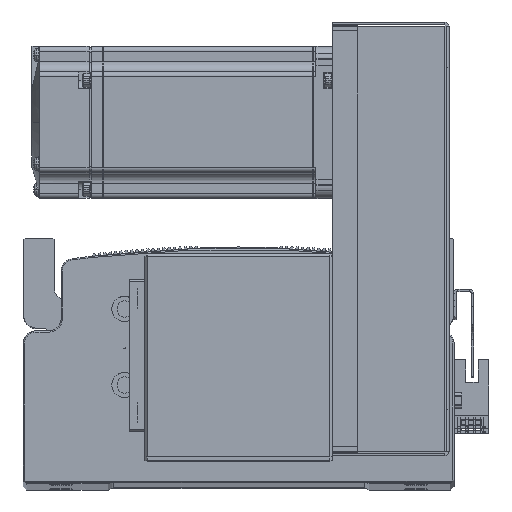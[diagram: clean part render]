
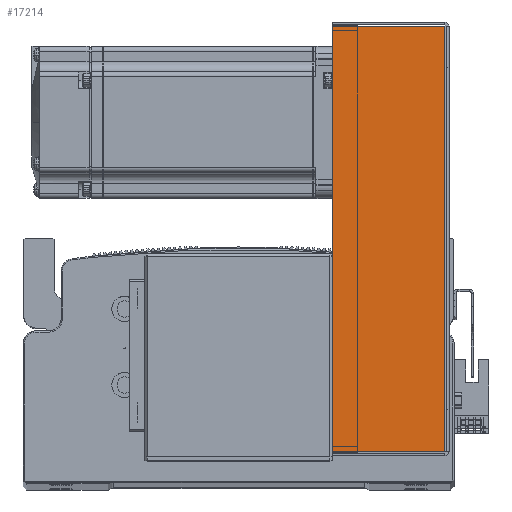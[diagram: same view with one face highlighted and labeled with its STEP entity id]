
A CAD part, top view. The second image highlights one B-rep face of the part: STEP entity #17214.
In plain terms, the highlighted planar face has unit normal (0, 0, 1).
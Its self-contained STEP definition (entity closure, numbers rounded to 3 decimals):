
#2729 = LINE ( 'NONE', #20617, #2914 ) ;
#2897 = VECTOR ( 'NONE', #20629, 1000. ) ;
#2899 = LINE ( 'NONE', #20590, #2955 ) ;
#2914 = VECTOR ( 'NONE', #20606, 1000. ) ;
#2955 = VECTOR ( 'NONE', #20657, 1000. ) ;
#2961 = LINE ( 'NONE', #20627, #2897 ) ;
#3028 = VECTOR ( 'NONE', #20721, 1000. ) ;
#3079 = LINE ( 'NONE', #20731, #3028 ) ;
#9090 = CARTESIAN_POINT ( 'NONE',  ( -83.793, 0.737, 40.5 ) ) ;
#9152 = CARTESIAN_POINT ( 'NONE',  ( 83.793, 45., 40.5 ) ) ;
#9162 = CARTESIAN_POINT ( 'NONE',  ( 83.793, 0.737, 40.5 ) ) ;
#9168 = CARTESIAN_POINT ( 'NONE',  ( -83.793, 45., 40.5 ) ) ;
#12271 = AXIS2_PLACEMENT_3D ( 'NONE', #19502, #19454, #19441 ) ;
#14055 = ORIENTED_EDGE ( 'NONE', *, *, #49139, .T. ) ;
#14118 = ORIENTED_EDGE ( 'NONE', *, *, #49190, .F. ) ;
#14141 = ORIENTED_EDGE ( 'NONE', *, *, #49142, .F. ) ;
#14151 = ORIENTED_EDGE ( 'NONE', *, *, #49121, .T. ) ;
#17214 = ADVANCED_FACE ( 'NONE', ( #74760 ), #19416, .F. ) ;
#19416 = PLANE ( 'NONE',  #12271 ) ;
#19441 = DIRECTION ( 'NONE',  ( -1., 0., 0. ) ) ;
#19454 = DIRECTION ( 'NONE',  ( 0., 0., -1. ) ) ;
#19502 = CARTESIAN_POINT ( 'NONE',  ( 0., 0., 40.5 ) ) ;
#20590 = CARTESIAN_POINT ( 'NONE',  ( 83.793, 0., 40.5 ) ) ;
#20606 = DIRECTION ( 'NONE',  ( -1., 0., 0. ) ) ;
#20617 = CARTESIAN_POINT ( 'NONE',  ( -84.5, 45., 40.5 ) ) ;
#20627 = CARTESIAN_POINT ( 'NONE',  ( 0., 0.737, 40.5 ) ) ;
#20629 = DIRECTION ( 'NONE',  ( -1., 0., 0. ) ) ;
#20657 = DIRECTION ( 'NONE',  ( 0., 1., 0. ) ) ;
#20721 = DIRECTION ( 'NONE',  ( 0., 1., 0. ) ) ;
#20731 = CARTESIAN_POINT ( 'NONE',  ( -83.793, 0., 40.5 ) ) ;
#49121 = EDGE_CURVE ( 'NONE', #51382, #51403, #2729, .T. ) ;
#49139 = EDGE_CURVE ( 'NONE', #51398, #51382, #2899, .T. ) ;
#49142 = EDGE_CURVE ( 'NONE', #51398, #51383, #2961, .T. ) ;
#49190 = EDGE_CURVE ( 'NONE', #51383, #51403, #3079, .T. ) ;
#51382 = VERTEX_POINT ( 'NONE', #9152 ) ;
#51383 = VERTEX_POINT ( 'NONE', #9090 ) ;
#51398 = VERTEX_POINT ( 'NONE', #9162 ) ;
#51403 = VERTEX_POINT ( 'NONE', #9168 ) ;
#58537 = EDGE_LOOP ( 'NONE', ( #14141, #14055, #14151, #14118 ) ) ;
#74760 = FACE_OUTER_BOUND ( 'NONE', #58537, .T. ) ;
